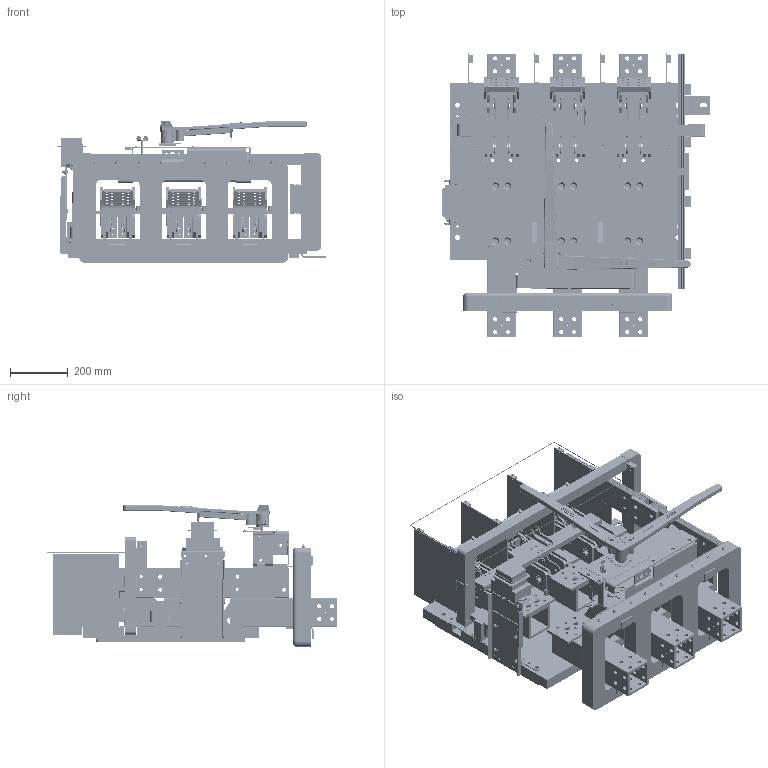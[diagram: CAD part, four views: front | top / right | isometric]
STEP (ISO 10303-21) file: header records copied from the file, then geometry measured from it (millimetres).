
FILE_DESCRIPTION(/* description */ (''),/* implementation_level */ '2;1');
FILE_NAME(/* name */ 'H:\switches\3d-templates\catalog-switches-iges-files\CATALOG-SL3613AG60.stp',/* time_stamp */ '2022-03-21T14:16:21-05:00',/* author */ ('MKingston'),/* organization */ (''),/* preprocessor_version */ 'ST-DEVELOPER v18.1',/* originating_system */ 'Autodesk Inventor 2022',/* authorisation */ '');
FILE_SCHEMA (('AUTOMOTIVE_DESIGN { 1 0 10303 214 3 1 1 }'));
Products named in the file (73): CATALOG-SL3613; 701; 708-arc-chute-assy; 50-ql; 50-qr; 709; 702; 704; 248-A; CATALOG-4000-blade-assy; 705-b; 705-a; 705-c; 67-j; 69-gc3; 69-gd3; 67-fc3; 236-b; 50-g; 255-q; sl-interpole-barrier-assy; 255-p; 178-c; 178-b; 672-a; 221-kpa; 452; 481-a; gfr-1-mounting-assembly; 277-L1T; 277-l2; 277-l3; 277-l4; gfr-1; Bolted Connection; ANSI B18.6.3 - 10 - 32 x 7/8 SR HMS; ANSI B18.22.1 - No. 10 - Type A; ASME B18.21.1 - No. 10. Carbon Steel, ETLWTB(1); ANSI B18.2.2 - 10 - 32, HMSNI; Bolted Connection_1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
Assembly tree (147 placements, depth 4):
  CATALOG-SL3613
    701  x3
    708-arc-chute-assy  x3
      50-ql
      50-qr
      709
    702  x3
    704  x6
    248-A  x2
    CATALOG-4000-blade-assy  x3
      705-c
      705-b
      67-j
      705-a
      67-fc3
      69-gc3
      69-gd3
    236-b
    50-g
    sl-interpole-barrier-assy  x4
      255-p
      178-b
      178-c
    255-q
    672-a  x2
    221-kpa
    452
    481-a
    gfr-1-mounting-assembly
      277-L1T
      277-l2
      277-l3
      277-l4
      gfr-1
      Bolted Connection
        ANSI B18.22.1 - No. 10 - Type A  x4
        ASME B18.21.1 - No. 10. Carbon Steel, ETLWTB(1)  x4
        ANSI B18.6.3 - 10 - 32 x 7/8 SR HMS  x2
        ANSI B18.2.2 - 10 - 32, HMSNI  x2
      Bolted Connection_1
        ANSI B18.5 - 1/4-20 UNC - 0.75, RHBI  x6
        ASTM F436 - 1/4, CW  x6
        ASME B18.21.1 - 1/4. Carbon Steel, HITLWTB(1)  x6
        ANSI B18.2.2 - 1/4 - 20, HNI  x6
    sl-slb-gfi-ring-assembly
      GFS10X30
      277-ma
    800-bck2
    800-fck-1
    transformer
    4000-SL-NEUTRAL
      676-x  x8
      677-g  x2
      675-h  x3
      675-ja
      678-s
    672-E
    67-ZBA  x3
    223-FE
    223-d-transparent
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Bounding box: 926.24 x 1000.12 x 489.33 mm (x, y, z)
Volume: 49653037.1 mm3; surface area: 7711036.4 mm2
Topology: 206 solids, 207 shells, 5773 faces, 14987 edges, 9767 vertices
Faces by surface type: plane 2784, cylinder 2495, cone 225, bspline 151, torus 110, sphere 8
Full cylindrical faces by diameter (mm): 1.702 x8, 3.302 x14, 3.581 x2, 3.658 x22, 3.683 x8, 3.81 x9, 3.962 x11, 4.089 x4, 4.191 x9, 4.293 x9, 4.343 x84, 4.366 x2, 4.496 x36, 4.572 x9, 4.653 x4, 4.762 x4, 4.775 x8, 4.801 x8, 4.826 x2, 4.902 x14, 4.915 x16, 4.953 x4, 4.978 x39, 5.462 x4, 5.537 x3, 5.556 x3, 5.563 x10, 5.791 x12, 6.35 x20, 6.528 x58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
Entity records: 98618 total; most frequent: CARTESIAN_POINT 25115, DIRECTION 14711, ORIENTED_EDGE 14280, EDGE_CURVE 7148, AXIS2_PLACEMENT_3D 5238, VERTEX_POINT 4620, LINE 4235, VECTOR 4235
